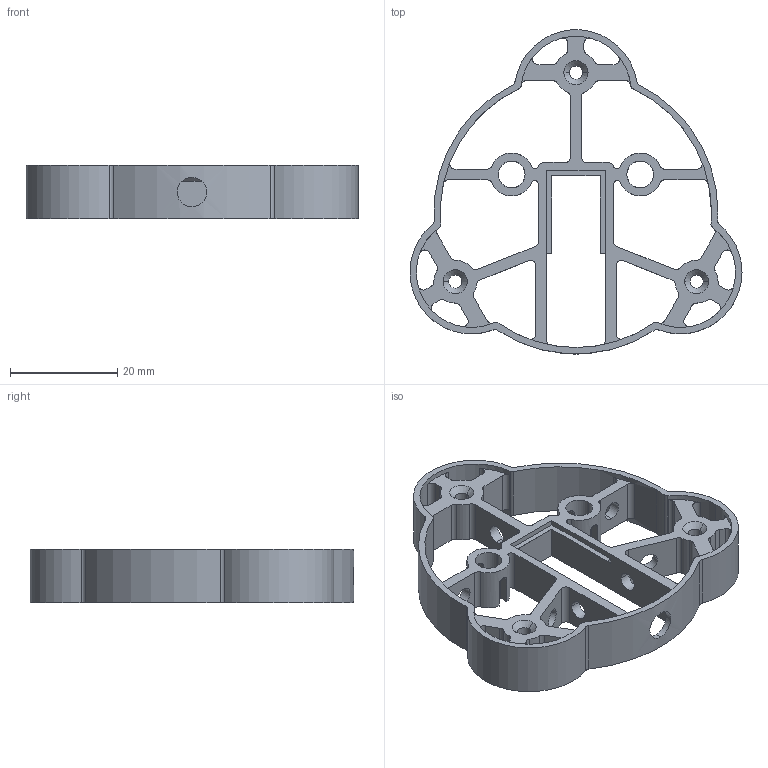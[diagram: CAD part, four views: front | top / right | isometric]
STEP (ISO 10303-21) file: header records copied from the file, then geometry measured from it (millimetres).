
FILE_DESCRIPTION (( 'STEP AP214' ), '1' );
FILE_NAME ('扻豵鵨 膫闀膱 .STEP', '2021-11-10T11:29:43', ( 'j03075@gmail.com' ), ( '' ), 'SwSTEP 2.0', 'SolidWorks 2021', '' );
FILE_SCHEMA (( 'AUTOMOTIVE_DESIGN' ));
Length unit declared in the file: millimetre
Products named in the file (1): 扻豵鵨 膫闀膱 
Bounding box: 61.95 x 60.46 x 10 mm (x, y, z)
Volume: 6770.2 mm3; surface area: 8828.2 mm2
Topology: 1 solids, 1 shells, 223 faces, 688 edges, 454 vertices
Faces by surface type: cylinder 153, plane 58, cone 12
Entity records: 8208 total; most frequent: CARTESIAN_POINT 1630, DIRECTION 1464, ORIENTED_EDGE 1376, EDGE_CURVE 688, AXIS2_PLACEMENT_3D 564, VERTEX_POINT 454, CIRCLE 340, LINE 336
